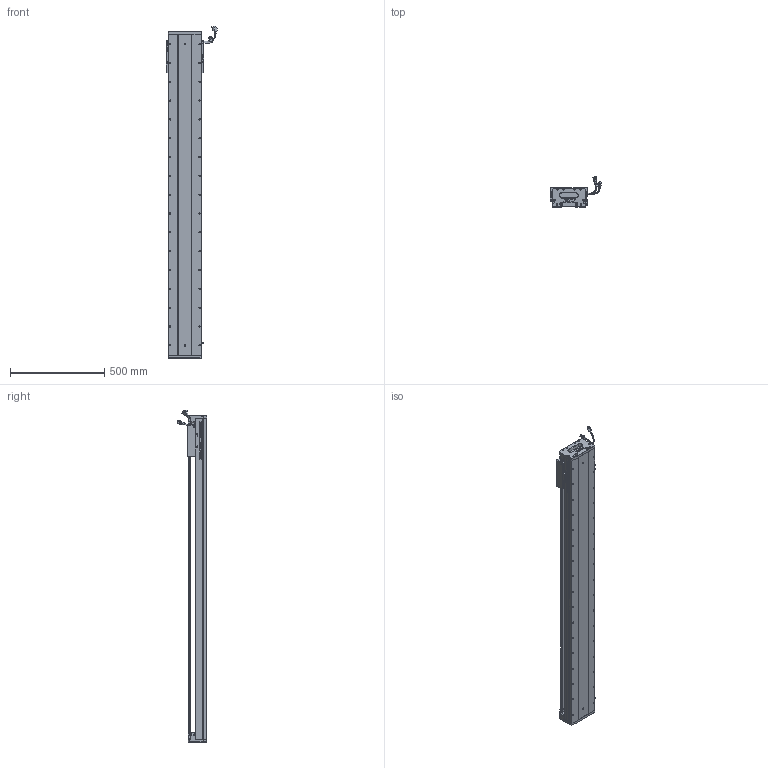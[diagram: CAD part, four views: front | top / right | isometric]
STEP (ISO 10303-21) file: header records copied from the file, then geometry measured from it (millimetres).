
FILE_DESCRIPTION (( 'STEP AP203' ), '1' );
FILE_NAME ('Z2-RY170D-1-L500-B-K.SLDASM_1450.step', '2021-05-17T09:08:17', ( '盈信电脑' ), ( '东莞市道滘镇水果街19号' ), 'SwSTEP 2.0', 'SolidWorks 2016', '' );
FILE_SCHEMA (( 'CONFIG_CONTROL_DESIGN' ));
Length unit declared in the file: millimetre
Products named in the file (36): RY170直线电机感应器672光电感应片; PBU_SHEET; 170-Z-臏賑輸盄裔(21遴); SEAL-Part-1; 140蚥薯蝶輸; Z-RY170詩湍狟揤裔; HARNESS-Part-1; SCREW-M1.6-1; LABEL; SCREW-M1.7; 080黍杅芛假蚾釱21遴; 榋妏寠巭燃_暯_M2_2; SCALE; SEAL; COVER; Z-170詩湍傷裔啣; SHIELDPLATE; SCALE-Part-1; LABEL-Part-1; 覜茼ん672; HARNESS; SCREW-M1.6; Z2-RY170-L500耀郪菁釱_1450; Z2-RY170臏賑輸(21遴); SCALE-Part-2; Z-RY170詩湍奻揤裔; 140雄赽晤鎢ん堤盄; PSLH080_PSLF2; HOLDER0; Z2-RY170D-1-L500-B-K.SLDASM_1450; HARNESS-Part-2; SCREW-M1.6-3; COVER-Part-1; SCREW-M1.6-2; SCREW-M1.7-1; Z2-RY170-L500詩湍145mm遵_1450
Assembly tree (41 placements, depth 4):
  Z2-RY170D-1-L500-B-K.SLDASM_1450
    Z2-RY170-L500耀郪菁釱_1450
    RY170直线电机感应器672光电感应片
    Z2-RY170臏賑輸(21遴)
    覜茼ん672  x3
    PSLH080_PSLF2
      SCALE
        SCALE-Part-1
        SCALE-Part-2
      HARNESS
        HARNESS-Part-1
        HARNESS-Part-2
      LABEL
        LABEL-Part-1
      COVER
        COVER-Part-1
      SEAL
        SEAL-Part-1
      榋妏寠巭燃_暯_M2_2
      SHIELDPLATE
      SCREW-M1.7
      SCREW-M1.7-1
      PBU_SHEET
      SCREW-M1.6
      SCREW-M1.6-1
      SCREW-M1.6-2
      SCREW-M1.6-3
      HOLDER0
    080黍杅芛假蚾釱21遴
    Z2-RY170-L500詩湍145mm遵_1450
    Z-170詩湍傷裔啣  x2
    Z-RY170詩湍奻揤裔  x2
    Z-RY170詩湍狟揤裔  x2
    140蚥薯蝶輸  x2
    170-Z-臏賑輸盄裔(21遴)
    140雄赽晤鎢ん堤盄
Bounding box: 275.33 x 158.11 x 1763.72 mm (x, y, z)
Volume: 9069091.4 mm3; surface area: 2233211.3 mm2
Topology: 36 solids, 36 shells, 3482 faces, 9489 edges, 5947 vertices
Faces by surface type: cylinder 1668, plane 1228, cone 464, torus 69, bspline 53
Entity records: 105933 total; most frequent: CARTESIAN_POINT 28376, ORIENTED_EDGE 15654, DIRECTION 14979, EDGE_CURVE 7827, AXIS2_PLACEMENT_3D 5500, VERTEX_POINT 5065, LINE 3979, VECTOR 3979
